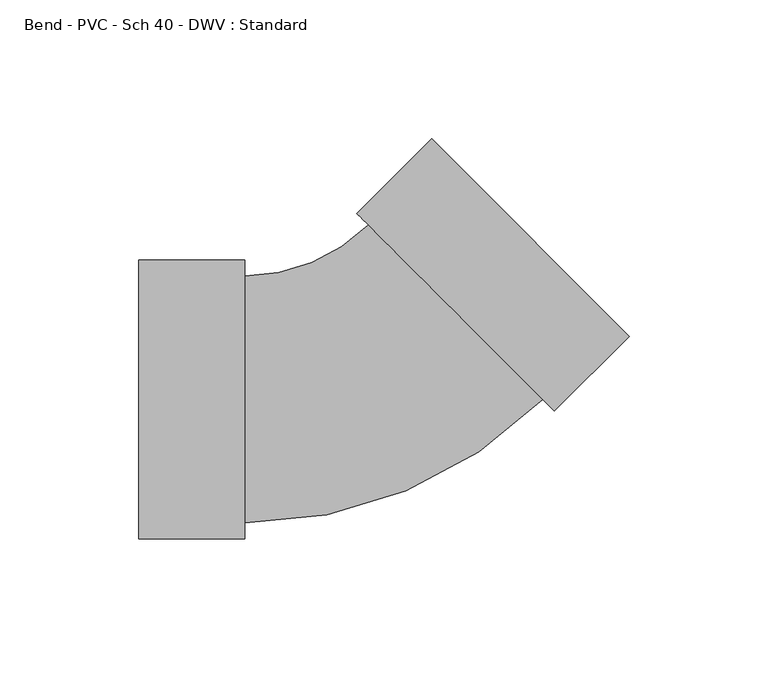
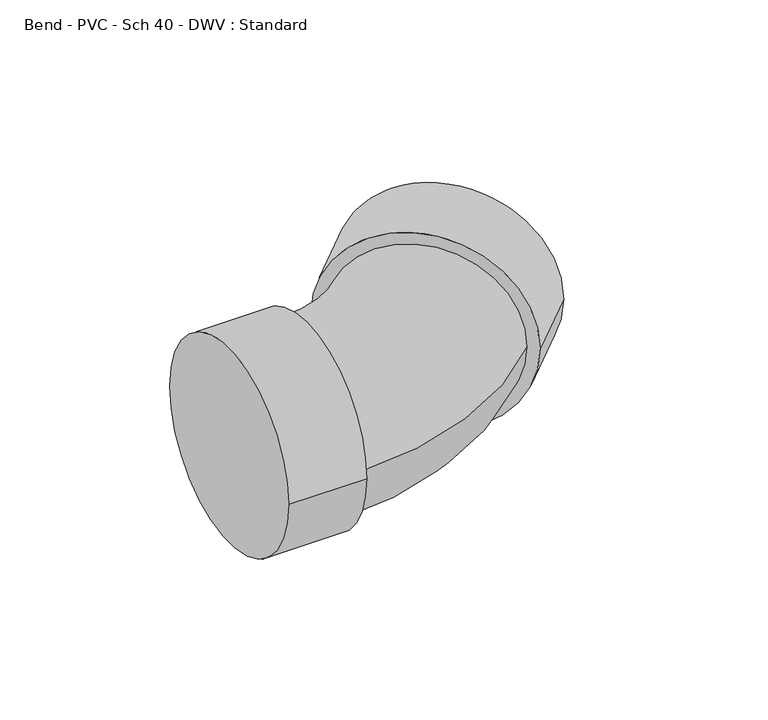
"""IFC4 building model written with IfcOpenShell, lengths in millimetres: pipe fitting geometry, Bend - PVC - Sch 40 - DWV : Standard."""

from ifc_helpers import new_model, si_unit, point, frame, origin, place, context, project, spatial, circle_curve, ellipse_curve, trimmed, source, transform, mapped, element, save
from ifc_brep_helpers import plane_surface, cylinder_surface, revolved_surface, advanced_brep


def bend_pvc_sch_40_dwv_standard_e66c3fd9(model_context):
    return source(origin(), model_context, "Body", "AdvancedBrep", [
        advanced_brep(
        [(-82.55, -50.2666, 0.0), (-82.55, 50.2666, 0.0), (-44.45, -50.2666, 0.0), (-44.45, 50.2666, 0.0), (-44.45, -44.45, 0.0), (-44.45, 44.45, 0.0), (0.074823, 62.8617483, 0.0), (62.8617483, -0.074823, 0.0), (66.9698071, -4.192673, 0.0), (-4.0332358, 66.9795983, 0.0), (93.9426234, 22.7160093, 0.0), (22.9395805, 93.8882805, 0.0)],
        [
            (0, 1, circle_curve(frame((-82.55, 0.0, 0.0), z_axis=(-1.0, 0.0, 0.0), x_axis=(0.0, 1.0, 0.0)), 50.2666)),
            (1, 0, circle_curve(frame((-82.55, 0.0, 0.0), z_axis=(-1.0, 0.0, 0.0), x_axis=(0.0, 1.0, 0.0)), 50.2666)),
            (2, 3, circle_curve(frame((-44.45, 0.0, 0.0), z_axis=(1.0, 0.0, 0.0), x_axis=(0.0, 1.0, 0.0)), 50.2666)),
            (3, 2, circle_curve(frame((-44.45, 0.0, 0.0), z_axis=(1.0, 0.0, 0.0), x_axis=(0.0, 1.0, 0.0)), 50.2666)),
            (4, 5, circle_curve(frame((-44.45, 0.0, 0.0), z_axis=(-1.0, 0.0, 0.0), x_axis=(0.0, 1.0, 0.0)), 44.45)),
            (5, 4, circle_curve(frame((-44.45, 0.0, 0.0), z_axis=(-1.0, 0.0, 0.0), x_axis=(0.0, 1.0, 0.0)), 44.45)),
            (0, 2),
            (3, 1),
            (6, 5, circle_curve(frame((-44.45, 107.4926915, 0.0), z_axis=(0.0, 0.0, -1.0), x_axis=(0.0, -1.0, 0.0)), 63.0426915)),
            (4, 7, circle_curve(frame((-44.45, 107.4926915, 0.0), z_axis=(0.0, 0.0, 1.0), x_axis=(0.0, -1.0, 0.0)), 151.9426915)),
            (7, 6, circle_curve(frame((31.4682857, 31.3934627, 0.0), z_axis=(-0.7079479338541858, -0.7062646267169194, 0.0), x_axis=(-0.7062646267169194, 0.7079479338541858, 0.0)), 44.45)),
            (6, 7, circle_curve(frame((31.4682857, 31.3934627, 0.0), z_axis=(-0.7079479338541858, -0.7062646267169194, 0.0), x_axis=(-0.7062646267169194, 0.7079479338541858, 0.0)), 44.45)),
            (8, 9, circle_curve(frame((31.4682857, 31.3934627, 0.0), z_axis=(-0.7079479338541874, -0.7062646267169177, 0.0), x_axis=(-0.7062646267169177, 0.7079479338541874, 0.0)), 50.2666)),
            (9, 8, circle_curve(frame((31.4682857, 31.3934627, 0.0), z_axis=(-0.7079479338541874, -0.7062646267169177, 0.0), x_axis=(-0.7062646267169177, 0.7079479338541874, 0.0)), 50.2666)),
            (10, 11, circle_curve(frame((58.4411019, 58.3021449, 0.0), z_axis=(0.7079479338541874, 0.7062646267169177, 0.0), x_axis=(-0.7062646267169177, 0.7079479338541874, 0.0)), 50.2666)),
            (11, 10, circle_curve(frame((58.4411019, 58.3021449, 0.0), z_axis=(0.7079479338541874, 0.7062646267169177, 0.0), x_axis=(-0.7062646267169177, 0.7079479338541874, 0.0)), 50.2666)),
            (8, 10),
            (11, 9),
        ],
        [
            plane_surface(frame((-82.55, 0.0, 0.0), z_axis=(-1.0, 0.0, 0.0), x_axis=(0.0, 0.0, 1.0))),
            plane_surface(frame((-44.45, 0.0, 0.0), z_axis=(1.0, 0.0, 0.0), x_axis=(0.0, 0.0, 1.0))),
            cylinder_surface(frame((-82.55, 0.0, 0.0), z_axis=(-1.0, 0.0, 0.0), x_axis=(0.0, 1.0, 0.0)), 50.2666),
            revolved_surface(trimmed(ellipse_curve(frame((-44.45, 0.0, 0.0), z_axis=(-1.0, 0.0, 0.0), x_axis=(0.0, 1.0, 0.0)), 44.45, 44.45), [point((-44.45, -44.45, 0.0))], [point((-44.45, 44.45, 0.0))], True, "CARTESIAN"), (-44.45, 107.4926915, 0.0), (0.0, 0.0, 1.0)),
            revolved_surface(trimmed(ellipse_curve(frame((-44.45, 0.0, 0.0), z_axis=(-1.0, 0.0, 0.0), x_axis=(0.0, 1.0, 0.0)), 44.45, 44.45), [point((-44.45, 44.45, 0.0))], [point((-44.45, -44.45, 0.0))], True, "CARTESIAN"), (-44.45, 107.4926915, 0.0), (0.0, 0.0, 1.0)),
            plane_surface(frame((31.4682857, 31.3934627, 0.0), z_axis=(-0.7079479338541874, -0.7062646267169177, 0.0), x_axis=(0.0, 0.0, 1.0))),
            plane_surface(frame((58.4411019, 58.3021449, 0.0), z_axis=(0.7079479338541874, 0.7062646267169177, 0.0), x_axis=(0.0, 0.0, 1.0))),
            cylinder_surface(frame((31.4682857, 31.3934627, 0.0), z_axis=(-0.7079479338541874, -0.7062646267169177, 0.0), x_axis=(-0.7062646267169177, 0.7079479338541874, 0.0)), 50.2666),
        ],
        [
            (0, [[1, 2]]),
            (1, [[3, 4], [5, 6]]),
            (2, [[-1, 7, -4, 8]]),
            (2, [[-2, -8, -3, -7]]),
            (3, [[9, -5, 10, 11]]),
            (4, [[-9, 12, -10, -6]]),
            (5, [[13, 14], [-11, -12]]),
            (6, [[15, 16]]),
            (7, [[-13, 17, -16, 18]]),
            (7, [[-14, -18, -15, -17]]),
        ],
    ),
    ])


if __name__ == "__main__":
    model = new_model("IFC4")
    model_context = context("Model", 3, world=origin())
    ifc_project = project(units=[si_unit("LENGTHUNIT", "METRE", prefix="MILLI")], contexts=[model_context])
    site = spatial("IfcSite", under=ifc_project)
    building = spatial("IfcBuilding", under=site)
    placement = place(None, origin())
    bend_pvc_sch_40_dwv_standard_shape = bend_pvc_sch_40_dwv_standard_e66c3fd9(model_context)
    element("IfcPipeFitting", 1, ObjectType="Bend - PVC - Sch 40 - DWV : Standard", at=placement, inside=building, context=model_context, shape_type="MappedRepresentation", body=[
        mapped(bend_pvc_sch_40_dwv_standard_shape, transform((0.0, 0.0, 0.0), x_axis=(1.0, 0.0, 0.0), y_axis=(0.0, 1.0, 0.0), z_axis=(0.0, 0.0, 1.0))),
    ])
    save(model, "model.ifc")
